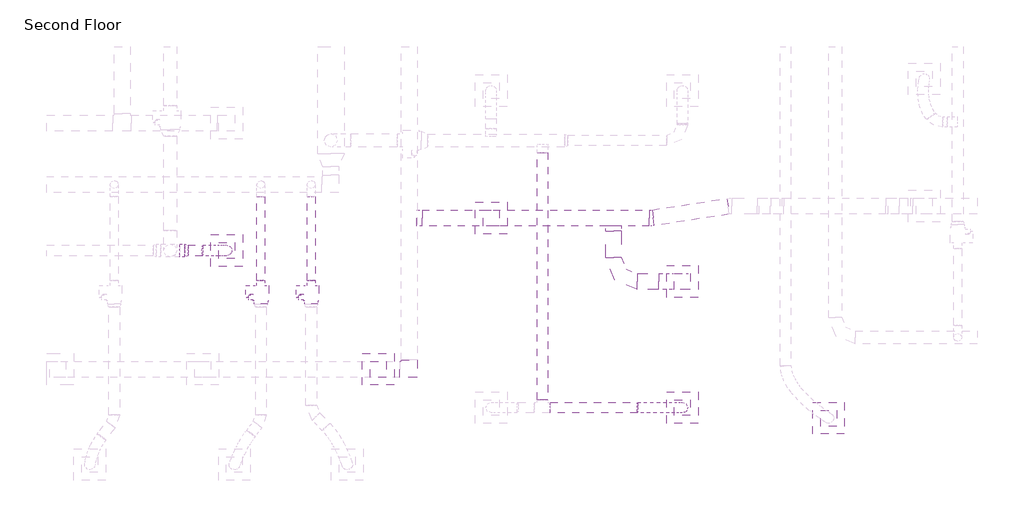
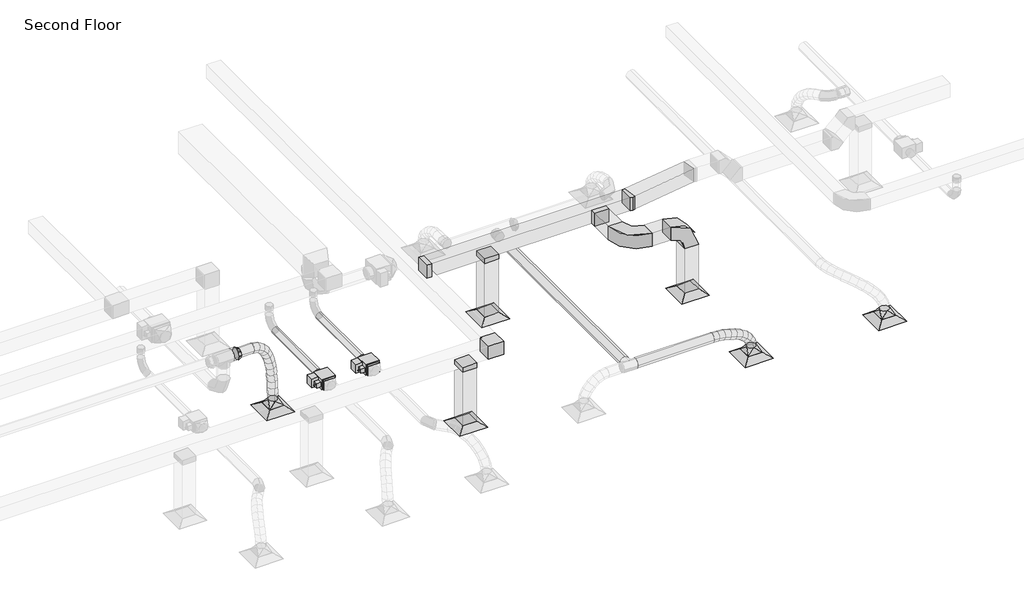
# One storey, part 9 of 44: 15 duct segments, 12 duct fittings, 6 air terminals, 2 proxies.
"""IFC4 building model written with IfcOpenShell, lengths in millimetres."""

from ifc_helpers import new_model, si_unit, point, frame, frame_2d, origin, place, context, project, spatial, polyline, circle_curve, ellipse_curve, trimmed, segment, composite_curve, outline, extrude, transform, mapped, element, save
from ifc_brep_helpers import plane_surface, cylinder_surface, advanced_brep
from components import m_exhaust_grill_er_600_x_600_face_300_x_300_connection_ff221211, m_vav_unit_single_duct_150_mm_ffdab17b, m_rectangular_elbow_mitered_standard_8eee5933, m_rectangular_elbow_mitered_standard_b4427c5f, m_rectangular_elbow_radius_1_5_w_86011e9f, m_rectangular_takeoff_standard_c00386d1, m_rectangular_takeoff_standard_b44bfa45, m_rectangular_to_round_transition_angle_45_degree_60daae35, m_round_transition_angle_45_degree_7939cf24

model = new_model("IFC4")

# Units and contexts
model_context = context("Model", 3, world=origin())
ifc_project = project(units=[si_unit("LENGTHUNIT", "METRE", prefix="MILLI")], contexts=[model_context])

# Site, building, storey
site = spatial("IfcSite", under=ifc_project)
building = spatial("IfcBuilding", under=site)
storey = spatial("IfcBuildingStorey", under=building, Name="Second Floor", Elevation=4570.0)

# Air terminals
placement = place(None, origin())
m_exhaust_grill_er_600_x_600_face_300_x_300_connection_shape = m_exhaust_grill_er_600_x_600_face_300_x_300_connection_ff221211(model_context)
element("IfcAirTerminal", 1, ObjectType="M_Return Register : RR-600 x 600 Face 300 x 300 Connection", at=placement, inside=storey, context=model_context, shape_type="MappedRepresentation", body=[
    mapped(m_exhaust_grill_er_600_x_600_face_300_x_300_connection_shape, transform((-25044.1448371, 15512.7324425, 7250.0), x_axis=(1.0, 0.0, 0.0), y_axis=(0.0, 1.0, 0.0), z_axis=(0.0, 0.0, 1.0))),
])
element("IfcAirTerminal", 2, ObjectType="M_Return Register : RR-600 x 600 Face 300 x 300 Connection", at=placement, inside=storey, context=model_context, shape_type="MappedRepresentation", body=[
    mapped(m_exhaust_grill_er_600_x_600_face_300_x_300_connection_shape, transform((-21434.5549303, 14312.7324425, 7250.0), x_axis=(1.0, 0.0, 0.0), y_axis=(0.0, 1.0, 0.0), z_axis=(0.0, 0.0, 1.0))),
])
element("IfcAirTerminal", 3, ObjectType="M_Return Register : RR-600 x 600 Face 300 x 300 Connection", at=placement, inside=storey, context=model_context, shape_type="MappedRepresentation", body=[
    mapped(m_exhaust_grill_er_600_x_600_face_300_x_300_connection_shape, transform((-27171.9634627, 12657.116341, 7250.0), x_axis=(1.0, 0.0, 0.0), y_axis=(0.0, 1.0, 0.0), z_axis=(0.0, 0.0, 1.0))),
])
element("IfcAirTerminal", 4, ObjectType="M_Supply Diffuser : SD-600 x 600 Face 300 x 300 Connection", at=placement, inside=storey, context=model_context, shape_type="MappedRepresentation", body=[
    mapped(m_exhaust_grill_er_600_x_600_face_300_x_300_connection_shape, transform((-21434.5549303, 11932.5353347, 7250.0), x_axis=(1.0, 0.0, 0.0), y_axis=(0.0, 1.0, 0.0), z_axis=(0.0, 0.0, 1.0))),
])
element("IfcAirTerminal", 5, ObjectType="M_Supply Diffuser : SD-600 x 600 Face 300 x 300 Connection", at=placement, inside=storey, context=model_context, shape_type="MappedRepresentation", body=[
    mapped(m_exhaust_grill_er_600_x_600_face_300_x_300_connection_shape, transform((-18677.4143005, 11732.7425354, 7250.0), x_axis=(1.0, 0.0, 0.0), y_axis=(0.0, 1.0, 0.0), z_axis=(0.0, 0.0, 1.0))),
])
element("IfcAirTerminal", 6, ObjectType="M_Supply Diffuser : SD-600 x 600 Face 300 x 300 Connection", at=placement, inside=storey, context=model_context, shape_type="MappedRepresentation", body=[
    mapped(m_exhaust_grill_er_600_x_600_face_300_x_300_connection_shape, transform((-30034.6900954, 14899.476398, 7250.0), x_axis=(1.0, 0.0, 0.0), y_axis=(0.0, 1.0, 0.0), z_axis=(0.0, 0.0, 1.0))),
])

# Proxies
m_vav_unit_single_duct_150_mm_shape = m_vav_unit_single_duct_150_mm_ffdab17b(model_context)
element("IfcBuildingElementProxy", 7, Name="M_VAV Unit - Single Duct : 150 mm", ObjectType="M_VAV Unit - Single Duct : 150 mm", at=placement, inside=storey, context=model_context, shape_type="MappedRepresentation", body=[
    mapped(m_vav_unit_single_duct_150_mm_shape, transform((-29388.5682282, 14234.6174916, 8070.0), x_axis=(0.0, -1.0, 0.0), y_axis=(1.0, 0.0, 0.0), z_axis=(0.0, 0.0, 1.0))),
])
element("IfcBuildingElementProxy", 8, Name="M_VAV Unit - Single Duct : 150 mm", ObjectType="M_VAV Unit - Single Duct : 150 mm", at=placement, inside=storey, context=model_context, shape_type="MappedRepresentation", body=[
    mapped(m_vav_unit_single_duct_150_mm_shape, transform((-28438.8864557, 14234.6174916, 8070.0), x_axis=(0.0, -1.0, 0.0), y_axis=(1.0, 0.0, 0.0), z_axis=(0.0, 0.0, 1.0))),
])

# Duct fittings
m_rectangular_elbow_mitered_standard_shape = m_rectangular_elbow_mitered_standard_8eee5933(model_context)
element("IfcDuctFitting", 9, ObjectType="M_Rectangular Elbow - Mitered : Standard", at=placement, inside=storey, context=model_context, shape_type="MappedRepresentation", body=[
    mapped(m_rectangular_elbow_mitered_standard_shape, transform((-26591.7415292, 12657.116341, 8820.0), x_axis=(1.0, 0.0, 0.0), y_axis=(0.0, 1.0, 0.0), z_axis=(0.0, 0.0, 1.0))),
])
m_rectangular_elbow_mitered_standard_2_shape = m_rectangular_elbow_mitered_standard_b4427c5f(model_context)
element("IfcDuctFitting", 10, ObjectType="M_Rectangular Elbow - Mitered : Standard", at=placement, inside=storey, context=model_context, shape_type="MappedRepresentation", body=[
    mapped(m_rectangular_elbow_mitered_standard_2_shape, transform((-22022.2805529, 15512.7324425, 8820.0), x_axis=(1.0, 0.0, 0.0), y_axis=(0.0, 1.0, 0.0), z_axis=(0.0, 0.0, 1.0))),
])
m_rectangular_elbow_radius_1_5_w_shape = m_rectangular_elbow_radius_1_5_w_86011e9f(model_context)
element("IfcDuctFitting", 11, ObjectType="M_Rectangular Elbow - Radius : 1.5 W", at=placement, inside=storey, context=model_context, shape_type="MappedRepresentation", body=[
    mapped(m_rectangular_elbow_radius_1_5_w_shape, transform((-21434.5549303, 14312.7324425, 8820.0), x_axis=(0.0, 0.0, 1.0), y_axis=(-1.0, 0.0, 0.0), z_axis=(0.0, -1.0, 0.0))),
])
element("IfcDuctFitting", 12, ObjectType="M_Rectangular Elbow - Radius : 1.5 W", at=placement, inside=storey, context=model_context, shape_type="MappedRepresentation", body=[
    mapped(m_rectangular_elbow_radius_1_5_w_shape, transform((-22734.5549303, 14312.7324425, 8820.0), x_axis=(0.0, -1.0, 0.0), y_axis=(1.0, 0.0, 0.0), z_axis=(0.0, 0.0, 1.0))),
])
m_rectangular_takeoff_standard_shape = m_rectangular_takeoff_standard_c00386d1(model_context)
element("IfcDuctFitting", 13, ObjectType="M_Rectangular Takeoff : Standard", at=placement, inside=storey, context=model_context, shape_type="MappedRepresentation", body=[
    mapped(m_rectangular_takeoff_standard_shape, transform((-27171.9634627, 12657.116341, 8670.0), x_axis=(0.0, 0.0, -1.0), y_axis=(0.0, 1.0, 0.0), z_axis=(1.0, 0.0, 0.0))),
])
element("IfcDuctFitting", 14, ObjectType="M_Rectangular Takeoff : Standard", at=placement, inside=storey, context=model_context, shape_type="MappedRepresentation", body=[
    mapped(m_rectangular_takeoff_standard_shape, transform((-22734.5549303, 15362.7324425, 8820.0), x_axis=(0.0, -1.0, 0.0), y_axis=(-1.0, 0.0, 0.0), z_axis=(0.0, 0.0, -1.0))),
])
m_rectangular_takeoff_standard_2_shape = m_rectangular_takeoff_standard_b44bfa45(model_context)
element("IfcDuctFitting", 15, ObjectType="M_Rectangular Takeoff : Standard", at=placement, inside=storey, context=model_context, shape_type="MappedRepresentation", body=[
    mapped(m_rectangular_takeoff_standard_2_shape, transform((-26441.7415292, 15512.7324425, 8820.0), x_axis=(1.0, 0.0, 0.0), y_axis=(0.0, -1.0, 0.0), z_axis=(0.0, 0.0, -1.0))),
])
element("IfcDuctFitting", 16, ObjectType="M_Rectangular Takeoff : Standard", at=placement, inside=storey, context=model_context, shape_type="MappedRepresentation", body=[
    mapped(m_rectangular_takeoff_standard_2_shape, transform((-25044.1448371, 15512.7324425, 8670.0), x_axis=(0.0, 0.0, -1.0), y_axis=(1.0, 0.0, 0.0), z_axis=(0.0, -1.0, 0.0))),
])
m_rectangular_to_round_transition_angle_45_degree_shape = m_rectangular_to_round_transition_angle_45_degree_60daae35(model_context)
element("IfcDuctFitting", 17, ObjectType="M_Rectangular to Round Transition - Angle : 45 Degree", at=placement, inside=storey, context=model_context, shape_type="MappedRepresentation", body=[
    mapped(m_rectangular_to_round_transition_angle_45_degree_shape, transform((-30034.6900954, 14899.476398, 7351.6), x_axis=(0.0, 0.0, 1.0), y_axis=(1.0, 0.0, 0.0), z_axis=(0.0, 1.0, 0.0))),
])
element("IfcDuctFitting", 18, ObjectType="M_Rectangular to Round Transition - Angle : 45 Degree", at=placement, inside=storey, context=model_context, shape_type="MappedRepresentation", body=[
    mapped(m_rectangular_to_round_transition_angle_45_degree_shape, transform((-21434.5549303, 11932.5353347, 7351.6), x_axis=(0.0, 0.0, 1.0), y_axis=(1.0, 0.0, 0.0), z_axis=(0.0, 1.0, 0.0))),
])
element("IfcDuctFitting", 19, ObjectType="M_Rectangular to Round Transition - Angle : 45 Degree", at=placement, inside=storey, context=model_context, shape_type="MappedRepresentation", body=[
    mapped(m_rectangular_to_round_transition_angle_45_degree_shape, transform((-18677.4143005, 11732.7425354, 7351.6), x_axis=(0.0, 0.0, 1.0), y_axis=(1.0, 0.0, 0.0), z_axis=(0.0, 1.0, 0.0))),
])
m_round_transition_angle_45_degree_shape = m_round_transition_angle_45_degree_7939cf24(model_context)
element("IfcDuctFitting", 20, ObjectType="M_Round Transition - Angle : 45 Degree", at=placement, inside=storey, context=model_context, shape_type="MappedRepresentation", body=[
    mapped(m_round_transition_angle_45_degree_shape, transform((-30823.3994281, 14899.476398, 8770.0), x_axis=(1.0, 0.0, 0.0), y_axis=(0.0, 1.0, 0.0), z_axis=(0.0, 0.0, 1.0))),
])

# Duct segments
element("IfcDuctSegment", 21, ObjectType="Flex - Round", at=placement, inside=storey, context=model_context, shape_type="AdvancedBrep", body=[
    advanced_brep(
    [(-30484.4701635, 14999.476398, 8770.0), (-30501.7202566, 14899.476398, 8671.4990645), (-30484.4701635, 14799.476398, 8770.0), (-30467.2200705, 14899.476398, 8868.5009355), (-30370.8068969, 14999.476398, 8750.0945857), (-30406.5112039, 14899.476398, 8654.8254663), (-30370.8068969, 14799.476398, 8750.0945857), (-30335.1025899, 14899.476398, 8845.3637051), (-30034.6900954, 14999.476398, 7472.3106781), (-29934.6901646, 14899.476398, 7472.4283321), (-30034.6900954, 14799.476398, 7472.3106781), (-30134.6900262, 14899.476398, 7472.1930241), (-30278.1068715, 14999.476398, 8694.0506266), (-30343.7063653, 14899.476398, 8616.8553386), (-30278.1068715, 14799.476398, 8694.0506266), (-30212.5073777, 14899.476398, 8771.2459145), (-30204.2339516, 14999.476398, 8607.376548), (-30287.9337665, 14899.476398, 8551.4181172), (-30204.2339516, 14799.476398, 8607.376548), (-30120.5341367, 14899.476398, 8663.3349787), (-30147.0520014, 14999.476398, 8495.5807755), (-30239.7125432, 14899.476398, 8457.1413588), (-30147.0520014, 14799.476398, 8495.5807755), (-30054.3914596, 14899.476398, 8534.0201921), (-30104.4248851, 14999.476398, 8364.1717345), (-30201.228541, 14899.476398, 8338.5045318), (-30104.4248851, 14799.476398, 8364.1717345), (-30007.6212292, 14899.476398, 8389.8389372), (-30074.2164669, 14999.476398, 8218.6578505), (-30172.9027325, 14899.476398, 8202.0591743), (-30074.2164669, 14799.476398, 8218.6578505), (-29975.5302014, 14899.476398, 8235.2565268), (-30054.2906111, 14999.476398, 8064.5475491), (-30153.8100211, 14899.476398, 8054.392568), (-30054.2906111, 14799.476398, 8064.5475491), (-29954.7712011, 14899.476398, 8074.7025303), (-30042.5111818, 14999.476398, 7907.3492557), (-30142.3718703, 14899.476398, 7901.7486892), (-30042.5111818, 14799.476398, 7907.3492557), (-29942.6504932, 14899.476398, 7912.9498221), (-30036.7420433, 14999.476398, 7752.5713957), (-30136.718006, 14899.476398, 7750.0634725), (-30036.7420433, 14799.476398, 7752.5713957), (-29936.7660806, 14899.476398, 7755.0793189), (-30034.8470597, 14999.476398, 7605.7223947), (-30134.8463006, 14899.476398, 7605.0183822), (-30034.8470597, 14799.476398, 7605.7223947), (-29934.8478188, 14899.476398, 7606.4264072)],
    [
        (0, 1, circle_curve(frame((-30484.4701635, 14899.476398, 8770.0), z_axis=(-0.9850093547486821, 0.0, 0.17250093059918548), x_axis=(0.0, 1.0, 0.0)), 100.0)),
        (1, 2, circle_curve(frame((-30484.4701635, 14899.476398, 8770.0), z_axis=(-0.9850093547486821, 0.0, 0.17250093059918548), x_axis=(0.0, 1.0, 0.0)), 100.0)),
        (2, 3, circle_curve(frame((-30484.4701635, 14899.476398, 8770.0), z_axis=(-0.9850093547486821, 0.0, 0.17250093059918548), x_axis=(0.0, 1.0, 0.0)), 100.0)),
        (3, 0, circle_curve(frame((-30484.4701635, 14899.476398, 8770.0), z_axis=(-0.9850093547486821, 0.0, 0.17250093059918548), x_axis=(0.0, 1.0, 0.0)), 100.0)),
        (0, 4),
        (4, 5, ellipse_curve(frame((-30370.8068969, 14899.476398, 8750.0945857), z_axis=(-0.9363989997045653, 0.0, 0.3509371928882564), x_axis=(-0.35093719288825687, 0.0, -0.9363989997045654)), 101.7398774, 100.0)),
        (5, 1),
        (5, 6, ellipse_curve(frame((-30370.8068969, 14899.476398, 8750.0945857), z_axis=(-0.9363989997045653, 0.0, 0.3509371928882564), x_axis=(-0.35093719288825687, 0.0, -0.9363989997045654)), 101.7398774, 100.0)),
        (6, 2),
        (6, 7, ellipse_curve(frame((-30370.8068969, 14899.476398, 8750.0945857), z_axis=(-0.9363989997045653, 0.0, 0.3509371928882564), x_axis=(-0.35093719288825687, 0.0, -0.9363989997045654)), 101.7398774, 100.0)),
        (7, 3),
        (7, 4, ellipse_curve(frame((-30370.8068969, 14899.476398, 8750.0945857), z_axis=(-0.9363989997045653, 0.0, 0.3509371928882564), x_axis=(-0.35093719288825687, 0.0, -0.9363989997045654)), 101.7398774, 100.0)),
        (8, 9, circle_curve(frame((-30034.6900954, 14899.476398, 7472.3106781), z_axis=(0.0011765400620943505, 0.0, -0.9999993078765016), x_axis=(0.0, 1.0, 0.0)), 100.0)),
        (9, 10, circle_curve(frame((-30034.6900954, 14899.476398, 7472.3106781), z_axis=(0.0011765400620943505, 0.0, -0.9999993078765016), x_axis=(0.0, 1.0, 0.0)), 100.0)),
        (10, 11, circle_curve(frame((-30034.6900954, 14899.476398, 7472.3106781), z_axis=(0.0011765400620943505, 0.0, -0.9999993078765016), x_axis=(0.0, 1.0, 0.0)), 100.0)),
        (11, 8, circle_curve(frame((-30034.6900954, 14899.476398, 7472.3106781), z_axis=(0.0011765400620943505, 0.0, -0.9999993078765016), x_axis=(0.0, 1.0, 0.0)), 100.0)),
        (4, 12),
        (12, 13, ellipse_curve(frame((-30278.1068715, 14899.476398, 8694.0506266), z_axis=(-0.7620196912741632, 0.0, 0.6475538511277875), x_axis=(-0.6475538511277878, 0.0, -0.7620196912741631)), 101.3035344, 100.0)),
        (13, 5),
        (13, 14, ellipse_curve(frame((-30278.1068715, 14899.476398, 8694.0506266), z_axis=(-0.7620196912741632, 0.0, 0.6475538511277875), x_axis=(-0.6475538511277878, 0.0, -0.7620196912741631)), 101.3035344, 100.0)),
        (14, 6),
        (14, 15, ellipse_curve(frame((-30278.1068715, 14899.476398, 8694.0506266), z_axis=(-0.7620196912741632, 0.0, 0.6475538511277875), x_axis=(-0.6475538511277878, 0.0, -0.7620196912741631)), 101.3035344, 100.0)),
        (15, 7),
        (15, 12, ellipse_curve(frame((-30278.1068715, 14899.476398, 8694.0506266), z_axis=(-0.7620196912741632, 0.0, 0.6475538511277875), x_axis=(-0.6475538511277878, 0.0, -0.7620196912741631)), 101.3035344, 100.0)),
        (12, 16),
        (16, 17, ellipse_curve(frame((-30204.2339516, 14899.476398, 8607.376548), z_axis=(-0.5557899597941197, 0.0, 0.8313227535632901), x_axis=(-0.8313227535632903, 0.0, -0.5557899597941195)), 100.6826946, 100.0)),
        (17, 13),
        (17, 18, ellipse_curve(frame((-30204.2339516, 14899.476398, 8607.376548), z_axis=(-0.5557899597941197, 0.0, 0.8313227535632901), x_axis=(-0.8313227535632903, 0.0, -0.5557899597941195)), 100.6826946, 100.0)),
        (18, 14),
        (18, 19, ellipse_curve(frame((-30204.2339516, 14899.476398, 8607.376548), z_axis=(-0.5557899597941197, 0.0, 0.8313227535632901), x_axis=(-0.8313227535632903, 0.0, -0.5557899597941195)), 100.6826946, 100.0)),
        (19, 15),
        (19, 16, ellipse_curve(frame((-30204.2339516, 14899.476398, 8607.376548), z_axis=(-0.5557899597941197, 0.0, 0.8313227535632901), x_axis=(-0.8313227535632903, 0.0, -0.5557899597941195)), 100.6826946, 100.0)),
        (16, 20),
        (20, 21, ellipse_curve(frame((-30147.0520014, 14899.476398, 8495.5807755), z_axis=(-0.3831782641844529, 0.0, 0.9236744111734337), x_axis=(-0.9236744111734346, 0.0, -0.3831782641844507)), 100.3173204, 100.0)),
        (21, 17),
        (21, 22, ellipse_curve(frame((-30147.0520014, 14899.476398, 8495.5807755), z_axis=(-0.3831782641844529, 0.0, 0.9236744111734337), x_axis=(-0.9236744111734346, 0.0, -0.3831782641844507)), 100.3173204, 100.0)),
        (22, 18),
        (22, 23, ellipse_curve(frame((-30147.0520014, 14899.476398, 8495.5807755), z_axis=(-0.3831782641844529, 0.0, 0.9236744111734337), x_axis=(-0.9236744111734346, 0.0, -0.3831782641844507)), 100.3173204, 100.0)),
        (23, 19),
        (23, 20, ellipse_curve(frame((-30147.0520014, 14899.476398, 8495.5807755), z_axis=(-0.3831782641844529, 0.0, 0.9236744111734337), x_axis=(-0.9236744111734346, 0.0, -0.3831782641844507)), 100.3173204, 100.0)),
        (20, 24),
        (24, 25, ellipse_curve(frame((-30104.4248851, 14899.476398, 8364.1717345), z_axis=(-0.2562910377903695, 0.0, 0.9665996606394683), x_axis=(-0.9665996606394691, 0.0, -0.2562910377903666)), 100.148655, 100.0)),
        (25, 21),
        (25, 26, ellipse_curve(frame((-30104.4248851, 14899.476398, 8364.1717345), z_axis=(-0.2562910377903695, 0.0, 0.9665996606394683), x_axis=(-0.9665996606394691, 0.0, -0.2562910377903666)), 100.148655, 100.0)),
        (26, 22),
        (26, 27, ellipse_curve(frame((-30104.4248851, 14899.476398, 8364.1717345), z_axis=(-0.2562910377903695, 0.0, 0.9665996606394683), x_axis=(-0.9665996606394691, 0.0, -0.2562910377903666)), 100.148655, 100.0)),
        (27, 23),
        (27, 24, ellipse_curve(frame((-30104.4248851, 14899.476398, 8364.1717345), z_axis=(-0.2562910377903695, 0.0, 0.9665996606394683), x_axis=(-0.9665996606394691, 0.0, -0.2562910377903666)), 100.148655, 100.0)),
        (24, 28),
        (28, 29, ellipse_curve(frame((-30074.2164669, 14899.476398, 8218.6578505), z_axis=(-0.16586659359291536, 0.0, 0.9861482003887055), x_axis=(-0.9861482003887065, 0.0, -0.16586659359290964)), 100.0724491, 100.0)),
        (29, 25),
        (29, 30, ellipse_curve(frame((-30074.2164669, 14899.476398, 8218.6578505), z_axis=(-0.16586659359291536, 0.0, 0.9861482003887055), x_axis=(-0.9861482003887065, 0.0, -0.16586659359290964)), 100.0724491, 100.0)),
        (30, 26),
        (30, 31, ellipse_curve(frame((-30074.2164669, 14899.476398, 8218.6578505), z_axis=(-0.16586659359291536, 0.0, 0.9861482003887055), x_axis=(-0.9861482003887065, 0.0, -0.16586659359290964)), 100.0724491, 100.0)),
        (31, 27),
        (31, 28, ellipse_curve(frame((-30074.2164669, 14899.476398, 8218.6578505), z_axis=(-0.16586659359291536, 0.0, 0.9861482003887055), x_axis=(-0.9861482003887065, 0.0, -0.16586659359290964)), 100.0724491, 100.0)),
        (28, 32),
        (32, 33, ellipse_curve(frame((-30054.2906111, 14899.476398, 8064.5475491), z_axis=(-0.10151308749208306, 0.0, 0.9948342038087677), x_axis=(-0.9948342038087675, 0.0, -0.10151308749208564)), 100.0361765, 100.0)),
        (33, 29),
        (33, 34, ellipse_curve(frame((-30054.2906111, 14899.476398, 8064.5475491), z_axis=(-0.10151308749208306, 0.0, 0.9948342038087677), x_axis=(-0.9948342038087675, 0.0, -0.10151308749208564)), 100.0361765, 100.0)),
        (34, 30),
        (34, 35, ellipse_curve(frame((-30054.2906111, 14899.476398, 8064.5475491), z_axis=(-0.10151308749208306, 0.0, 0.9948342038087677), x_axis=(-0.9948342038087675, 0.0, -0.10151308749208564)), 100.0361765, 100.0)),
        (35, 31),
        (35, 32, ellipse_curve(frame((-30054.2906111, 14899.476398, 8064.5475491), z_axis=(-0.10151308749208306, 0.0, 0.9948342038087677), x_axis=(-0.9948342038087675, 0.0, -0.10151308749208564)), 100.0361765, 100.0)),
        (32, 36),
        (36, 37, ellipse_curve(frame((-30042.5111818, 14899.476398, 7907.3492557), z_axis=(-0.05599580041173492, 0.0, 0.9984310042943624), x_axis=(-0.9984310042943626, 0.0, -0.05599580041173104)), 100.0176158, 100.0)),
        (37, 33),
        (37, 38, ellipse_curve(frame((-30042.5111818, 14899.476398, 7907.3492557), z_axis=(-0.05599580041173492, 0.0, 0.9984310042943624), x_axis=(-0.9984310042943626, 0.0, -0.05599580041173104)), 100.0176158, 100.0)),
        (38, 34),
        (38, 39, ellipse_curve(frame((-30042.5111818, 14899.476398, 7907.3492557), z_axis=(-0.05599580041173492, 0.0, 0.9984310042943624), x_axis=(-0.9984310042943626, 0.0, -0.05599580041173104)), 100.0176158, 100.0)),
        (39, 35),
        (39, 36, ellipse_curve(frame((-30042.5111818, 14899.476398, 7907.3492557), z_axis=(-0.05599580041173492, 0.0, 0.9984310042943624), x_axis=(-0.9984310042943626, 0.0, -0.05599580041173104)), 100.0176158, 100.0)),
        (36, 40),
        (40, 41, ellipse_curve(frame((-30036.7420433, 14899.476398, 7752.5713957), z_axis=(-0.025077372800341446, 0.0, 0.9996855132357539), x_axis=(-0.9996855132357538, 0.0, -0.025077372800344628)), 100.0074137, 100.0)),
        (41, 37),
        (41, 42, ellipse_curve(frame((-30036.7420433, 14899.476398, 7752.5713957), z_axis=(-0.025077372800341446, 0.0, 0.9996855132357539), x_axis=(-0.9996855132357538, 0.0, -0.025077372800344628)), 100.0074137, 100.0)),
        (42, 38),
        (42, 43, ellipse_curve(frame((-30036.7420433, 14899.476398, 7752.5713957), z_axis=(-0.025077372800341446, 0.0, 0.9996855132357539), x_axis=(-0.9996855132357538, 0.0, -0.025077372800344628)), 100.0074137, 100.0)),
        (43, 39),
        (43, 40, ellipse_curve(frame((-30036.7420433, 14899.476398, 7752.5713957), z_axis=(-0.025077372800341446, 0.0, 0.9996855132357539), x_axis=(-0.9996855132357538, 0.0, -0.025077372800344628)), 100.0074137, 100.0)),
        (40, 44),
        (44, 45, ellipse_curve(frame((-30034.8470597, 14899.476398, 7605.7223947), z_axis=(-0.007040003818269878, 0.0, 0.9999752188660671), x_axis=(-0.999975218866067, -1.257511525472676e-12, -0.0070400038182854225)), 100.0017191, 100.0)),
        (45, 41),
        (45, 46, ellipse_curve(frame((-30034.8470597, 14899.476398, 7605.7223947), z_axis=(-0.007040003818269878, 0.0, 0.9999752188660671), x_axis=(-0.999975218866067, -1.257511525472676e-12, -0.0070400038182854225)), 100.0017191, 100.0)),
        (46, 42),
        (46, 47, ellipse_curve(frame((-30034.8470597, 14899.476398, 7605.7223947), z_axis=(-0.007040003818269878, 0.0, 0.9999752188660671), x_axis=(-0.999975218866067, -1.257511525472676e-12, -0.0070400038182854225)), 100.0017191, 100.0)),
        (47, 43),
        (47, 44, ellipse_curve(frame((-30034.8470597, 14899.476398, 7605.7223947), z_axis=(-0.007040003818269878, 0.0, 0.9999752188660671), x_axis=(-0.999975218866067, -1.257511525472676e-12, -0.0070400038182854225)), 100.0017191, 100.0)),
        (44, 8),
        (11, 45),
        (10, 46),
        (9, 47),
    ],
    [
        plane_surface(frame((-30484.4701635, 14999.476398, 8770.0), z_axis=(-0.9850093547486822, 0.0, 0.17250093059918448), x_axis=(0.17250093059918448, 0.0, 0.9850093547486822))),
        cylinder_surface(frame((-30484.4701635, 14899.476398, 8770.0), z_axis=(-0.9850093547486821, 0.0, 0.17250093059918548), x_axis=(0.0, 1.0, 0.0)), 100.0),
        plane_surface(frame((-30034.6900954, 14799.476398, 7472.3106781), z_axis=(0.0011765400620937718, 0.0, -0.9999993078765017), x_axis=(-0.9999993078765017, 0.0, -0.0011765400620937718))),
        cylinder_surface(frame((-30370.8068969, 14899.476398, 8750.0945857), z_axis=(-0.855761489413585, 0.0, 0.5173705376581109), x_axis=(0.0, 1.0, 0.0)), 100.0),
        cylinder_surface(frame((-30278.1068715, 14899.476398, 8694.0506266), z_axis=(-0.648667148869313, 0.0, 0.7610722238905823), x_axis=(0.0, 1.0, 0.0)), 100.0),
        cylinder_surface(frame((-30204.2339516, 14899.476398, 8607.376548), z_axis=(-0.45537553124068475, 0.0, 0.8902994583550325), x_axis=(0.0, 1.0, 0.0)), 100.0),
        cylinder_surface(frame((-30147.0520014, 14899.476398, 8495.5807755), z_axis=(-0.30855688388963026, 0.0, 0.9512058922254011), x_axis=(0.0, 1.0, 0.0)), 100.0),
        cylinder_surface(frame((-30104.4248851, 14899.476398, 8364.1717345), z_axis=(-0.20326434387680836, 0.0, 0.9791238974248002), x_axis=(0.0, 1.0, 0.0)), 100.0),
        cylinder_surface(frame((-30074.2164669, 14899.476398, 8218.6578505), z_axis=(-0.12822867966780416, 0.0, 0.9917446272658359), x_axis=(0.0, 1.0, 0.0)), 100.0),
        cylinder_surface(frame((-30054.2906111, 14899.476398, 8064.5475491), z_axis=(-0.07472407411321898, 0.0, 0.9972042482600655), x_axis=(0.0, 1.0, 0.0)), 100.0),
        cylinder_surface(frame((-30042.5111818, 14899.476398, 7907.3492557), z_axis=(-0.03724780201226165, 0.0, 0.9993060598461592), x_axis=(0.0, 1.0, 0.0)), 100.0),
        cylinder_surface(frame((-30036.7420433, 14899.476398, 7752.5713957), z_axis=(-0.012903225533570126, 0.0, 0.9999167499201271), x_axis=(0.0, 1.0, 0.0)), 100.0),
        cylinder_surface(frame((-30034.8470597, 14899.476398, 7605.7223947), z_axis=(-0.0011765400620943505, 0.0, 0.9999993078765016), x_axis=(0.0, 1.0, 0.0)), 100.0),
    ],
    [
        (0, [[1, 2, 3, 4]]),
        (1, [[-1, 5, 6, 7]]),
        (1, [[-2, -7, 8, 9]]),
        (1, [[-3, -9, 10, 11]]),
        (1, [[-4, -11, 12, -5]]),
        (2, [[13, 14, 15, 16]]),
        (3, [[-6, 17, 18, 19]]),
        (3, [[-8, -19, 20, 21]]),
        (3, [[-10, -21, 22, 23]]),
        (3, [[-12, -23, 24, -17]]),
        (4, [[-18, 25, 26, 27]]),
        (4, [[-20, -27, 28, 29]]),
        (4, [[-22, -29, 30, 31]]),
        (4, [[-24, -31, 32, -25]]),
        (5, [[-26, 33, 34, 35]]),
        (5, [[-28, -35, 36, 37]]),
        (5, [[-30, -37, 38, 39]]),
        (5, [[-32, -39, 40, -33]]),
        (6, [[-34, 41, 42, 43]]),
        (6, [[-36, -43, 44, 45]]),
        (6, [[-38, -45, 46, 47]]),
        (6, [[-40, -47, 48, -41]]),
        (7, [[-42, 49, 50, 51]]),
        (7, [[-44, -51, 52, 53]]),
        (7, [[-46, -53, 54, 55]]),
        (7, [[-48, -55, 56, -49]]),
        (8, [[-50, 57, 58, 59]]),
        (8, [[-52, -59, 60, 61]]),
        (8, [[-54, -61, 62, 63]]),
        (8, [[-56, -63, 64, -57]]),
        (9, [[-58, 65, 66, 67]]),
        (9, [[-60, -67, 68, 69]]),
        (9, [[-62, -69, 70, 71]]),
        (9, [[-64, -71, 72, -65]]),
        (10, [[-66, 73, 74, 75]]),
        (10, [[-68, -75, 76, 77]]),
        (10, [[-70, -77, 78, 79]]),
        (10, [[-72, -79, 80, -73]]),
        (11, [[-74, 81, 82, 83]]),
        (11, [[-76, -83, 84, 85]]),
        (11, [[-78, -85, 86, 87]]),
        (11, [[-80, -87, 88, -81]]),
        (12, [[-82, 89, -16, 90]]),
        (12, [[-84, -90, -15, 91]]),
        (12, [[-86, -91, -14, 92]]),
        (12, [[-88, -92, -13, -89]]),
    ],
),
])
element("IfcDuctSegment", 22, ObjectType="Flex - Round", at=placement, inside=storey, context=model_context, shape_type="AdvancedBrep", body=[
    advanced_brep(
    [(-22281.9484882, 12032.5353347, 7939.1), (-22286.672458, 11932.5353347, 7839.2116418), (-22281.9484882, 11832.5353347, 7939.1), (-22277.2245183, 11932.5353347, 8038.9883582), (-22167.9540797, 12032.5353347, 7933.7089198), (-22176.9241112, 11932.5353347, 7834.0213685), (-22167.9540797, 11832.5353347, 7933.7089198), (-22158.9840482, 11932.5353347, 8033.3964712), (-21434.5549303, 12032.5353347, 7472.3106781), (-21336.1834532, 11932.5353347, 7490.2843391), (-21434.5549303, 11832.5353347, 7472.3106781), (-21532.9264075, 11932.5353347, 7454.3370172), (-22044.9515836, 12032.5353347, 7917.3498038), (-22062.2725233, 11932.5353347, 7818.7729086), (-22044.9515836, 11832.5353347, 7917.3498038), (-22027.6306439, 11932.5353347, 8015.9266991), (-21918.9272769, 12032.5353347, 7889.7438388), (-21944.8331056, 11932.5353347, 7793.0474867), (-21918.9272769, 11832.5353347, 7889.7438388), (-21893.0214482, 11932.5353347, 7986.4401909), (-21795.8674366, 12032.5353347, 7850.6122115), (-21831.5115693, 11932.5353347, 7757.0125291), (-21795.8674366, 11832.5353347, 7850.6122115), (-21760.2233039, 11932.5353347, 7944.2118938), (-21681.7583399, 12032.5353347, 7799.6761086), (-21729.2087884, 11932.5353347, 7711.3465382), (-21681.7583399, 11832.5353347, 7799.6761086), (-21634.3078914, 11932.5353347, 7888.0056791), (-21582.5862638, 12032.5353347, 7736.6567171), (-21644.7154524, 11932.5353347, 7657.6548255), (-21582.5862638, 11832.5353347, 7736.6567171), (-21520.4570753, 11932.5353347, 7815.6586088), (-21504.3374855, 12032.5353347, 7661.2752237), (-21583.7200997, 11932.5353347, 7598.8945371), (-21504.3374855, 11832.5353347, 7661.2752237), (-21424.9548713, 11932.5353347, 7723.6559102), (-21452.998282, 12032.5353347, 7573.2528151), (-21548.216927, 11932.5353347, 7538.023418), (-21452.998282, 11832.5353347, 7573.2528151), (-21357.7796369, 11932.5353347, 7608.4822122)],
    [
        (0, 1, circle_curve(frame((-22281.9484882, 11932.5353347, 7939.1), z_axis=(-0.9988835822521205, 0.0, 0.04723969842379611), x_axis=(0.0, 1.0, 0.0)), 100.0)),
        (1, 2, circle_curve(frame((-22281.9484882, 11932.5353347, 7939.1), z_axis=(-0.9988835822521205, 0.0, 0.04723969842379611), x_axis=(0.0, 1.0, 0.0)), 100.0)),
        (2, 3, circle_curve(frame((-22281.9484882, 11932.5353347, 7939.1), z_axis=(-0.9988835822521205, 0.0, 0.04723969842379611), x_axis=(0.0, 1.0, 0.0)), 100.0)),
        (3, 0, circle_curve(frame((-22281.9484882, 11932.5353347, 7939.1), z_axis=(-0.9988835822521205, 0.0, 0.04723969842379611), x_axis=(0.0, 1.0, 0.0)), 100.0)),
        (0, 4),
        (4, 5, ellipse_curve(frame((-22167.9540797, 11932.5353347, 7933.7089198), z_axis=(-0.9959760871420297, 0.0, 0.08961938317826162), x_axis=(-0.08961938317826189, 0.0, -0.9959760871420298)), 100.090306, 100.0)),
        (5, 1),
        (5, 6, ellipse_curve(frame((-22167.9540797, 11932.5353347, 7933.7089198), z_axis=(-0.9959760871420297, 0.0, 0.08961938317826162), x_axis=(-0.08961938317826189, 0.0, -0.9959760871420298)), 100.090306, 100.0)),
        (6, 2),
        (6, 7, ellipse_curve(frame((-22167.9540797, 11932.5353347, 7933.7089198), z_axis=(-0.9959760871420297, 0.0, 0.08961938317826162), x_axis=(-0.08961938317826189, 0.0, -0.9959760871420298)), 100.090306, 100.0)),
        (7, 3),
        (7, 4, ellipse_curve(frame((-22167.9540797, 11932.5353347, 7933.7089198), z_axis=(-0.9959760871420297, 0.0, 0.08961938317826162), x_axis=(-0.08961938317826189, 0.0, -0.9959760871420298)), 100.090306, 100.0)),
        (8, 9, circle_curve(frame((-21434.5549303, 11932.5353347, 7472.3106781), z_axis=(0.17973660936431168, 0.0, -0.9837147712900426), x_axis=(0.0, 1.0, 0.0)), 100.0)),
        (9, 10, circle_curve(frame((-21434.5549303, 11932.5353347, 7472.3106781), z_axis=(0.17973660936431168, 0.0, -0.9837147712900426), x_axis=(0.0, 1.0, 0.0)), 100.0)),
        (10, 11, circle_curve(frame((-21434.5549303, 11932.5353347, 7472.3106781), z_axis=(0.17973660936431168, 0.0, -0.9837147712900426), x_axis=(0.0, 1.0, 0.0)), 100.0)),
        (11, 8, circle_curve(frame((-21434.5549303, 11932.5353347, 7472.3106781), z_axis=(0.17973660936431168, 0.0, -0.9837147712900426), x_axis=(0.0, 1.0, 0.0)), 100.0)),
        (4, 12),
        (12, 13, ellipse_curve(frame((-22044.9515836, 11932.5353347, 7917.3498038), z_axis=(-0.9849115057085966, 0.0, 0.17305873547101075), x_axis=(-0.17305873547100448, 0.0, -0.9849115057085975)), 100.0870582, 100.0)),
        (13, 5),
        (13, 14, ellipse_curve(frame((-22044.9515836, 11932.5353347, 7917.3498038), z_axis=(-0.9849115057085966, 0.0, 0.17305873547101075), x_axis=(-0.17305873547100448, 0.0, -0.9849115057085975)), 100.0870582, 100.0)),
        (14, 6),
        (14, 15, ellipse_curve(frame((-22044.9515836, 11932.5353347, 7917.3498038), z_axis=(-0.9849115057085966, 0.0, 0.17305873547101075), x_axis=(-0.17305873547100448, 0.0, -0.9849115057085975)), 100.0870582, 100.0)),
        (15, 7),
        (15, 12, ellipse_curve(frame((-22044.9515836, 11932.5353347, 7917.3498038), z_axis=(-0.9849115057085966, 0.0, 0.17305873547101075), x_axis=(-0.17305873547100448, 0.0, -0.9849115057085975)), 100.0870582, 100.0)),
        (12, 16),
        (16, 17, ellipse_curve(frame((-21918.9272769, 11932.5353347, 7889.7438388), z_axis=(-0.9659355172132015, 0.0, 0.2587828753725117), x_axis=(-0.2587828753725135, 0.0, -0.965935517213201)), 100.1064257, 100.0)),
        (17, 13),
        (17, 18, ellipse_curve(frame((-21918.9272769, 11932.5353347, 7889.7438388), z_axis=(-0.9659355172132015, 0.0, 0.2587828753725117), x_axis=(-0.2587828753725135, 0.0, -0.965935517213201)), 100.1064257, 100.0)),
        (18, 14),
        (18, 19, ellipse_curve(frame((-21918.9272769, 11932.5353347, 7889.7438388), z_axis=(-0.9659355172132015, 0.0, 0.2587828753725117), x_axis=(-0.2587828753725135, 0.0, -0.965935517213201)), 100.1064257, 100.0)),
        (19, 15),
        (19, 16, ellipse_curve(frame((-21918.9272769, 11932.5353347, 7889.7438388), z_axis=(-0.9659355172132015, 0.0, 0.2587828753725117), x_axis=(-0.2587828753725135, 0.0, -0.965935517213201)), 100.1064257, 100.0)),
        (16, 20),
        (20, 21, ellipse_curve(frame((-21795.8674366, 11932.5353347, 7850.6122115), z_axis=(-0.9345305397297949, 0.0, 0.35588294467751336), x_axis=(-0.3558829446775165, 0.0, -0.9345305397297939)), 100.1569006, 100.0)),
        (21, 17),
        (21, 22, ellipse_curve(frame((-21795.8674366, 11932.5353347, 7850.6122115), z_axis=(-0.9345305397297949, 0.0, 0.35588294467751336), x_axis=(-0.3558829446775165, 0.0, -0.9345305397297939)), 100.1569006, 100.0)),
        (22, 18),
        (22, 23, ellipse_curve(frame((-21795.8674366, 11932.5353347, 7850.6122115), z_axis=(-0.9345305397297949, 0.0, 0.35588294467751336), x_axis=(-0.3558829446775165, 0.0, -0.9345305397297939)), 100.1569006, 100.0)),
        (23, 19),
        (23, 20, ellipse_curve(frame((-21795.8674366, 11932.5353347, 7850.6122115), z_axis=(-0.9345305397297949, 0.0, 0.35588294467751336), x_axis=(-0.3558829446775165, 0.0, -0.9345305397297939)), 100.1569006, 100.0)),
        (20, 24),
        (24, 25, ellipse_curve(frame((-21681.7583399, 11932.5353347, 7799.6761086), z_axis=(-0.8809354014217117, 0.0, 0.4732365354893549), x_axis=(-0.47323653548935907, 0.0, -0.8809354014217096)), 100.2679314, 100.0)),
        (25, 21),
        (25, 26, ellipse_curve(frame((-21681.7583399, 11932.5353347, 7799.6761086), z_axis=(-0.8809354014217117, 0.0, 0.4732365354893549), x_axis=(-0.47323653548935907, 0.0, -0.8809354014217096)), 100.2679314, 100.0)),
        (26, 22),
        (26, 27, ellipse_curve(frame((-21681.7583399, 11932.5353347, 7799.6761086), z_axis=(-0.8809354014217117, 0.0, 0.4732365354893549), x_axis=(-0.47323653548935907, 0.0, -0.8809354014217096)), 100.2679314, 100.0)),
        (27, 23),
        (27, 24, ellipse_curve(frame((-21681.7583399, 11932.5353347, 7799.6761086), z_axis=(-0.8809354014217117, 0.0, 0.4732365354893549), x_axis=(-0.47323653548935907, 0.0, -0.8809354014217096)), 100.2679314, 100.0)),
        (24, 28),
        (28, 29, ellipse_curve(frame((-21582.5862638, 11932.5353347, 7736.6567171), z_axis=(-0.7860462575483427, 0.0, 0.618167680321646), x_axis=(-0.6181676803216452, 0.0, -0.7860462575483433)), 100.5053976, 100.0)),
        (29, 25),
        (29, 30, ellipse_curve(frame((-21582.5862638, 11932.5353347, 7736.6567171), z_axis=(-0.7860462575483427, 0.0, 0.618167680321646), x_axis=(-0.6181676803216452, 0.0, -0.7860462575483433)), 100.5053976, 100.0)),
        (30, 26),
        (30, 31, ellipse_curve(frame((-21582.5862638, 11932.5353347, 7736.6567171), z_axis=(-0.7860462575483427, 0.0, 0.618167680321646), x_axis=(-0.6181676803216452, 0.0, -0.7860462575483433)), 100.5053976, 100.0)),
        (31, 27),
        (31, 28, ellipse_curve(frame((-21582.5862638, 11932.5353347, 7736.6567171), z_axis=(-0.7860462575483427, 0.0, 0.618167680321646), x_axis=(-0.6181676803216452, 0.0, -0.7860462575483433)), 100.5053976, 100.0)),
        (28, 32),
        (32, 33, ellipse_curve(frame((-21504.3374855, 11932.5353347, 7661.2752237), z_axis=(-0.6178744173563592, 0.0, 0.7862767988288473), x_axis=(-0.7862767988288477, 0.0, -0.6178744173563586)), 100.9601381, 100.0)),
        (33, 29),
        (33, 34, ellipse_curve(frame((-21504.3374855, 11932.5353347, 7661.2752237), z_axis=(-0.6178744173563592, 0.0, 0.7862767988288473), x_axis=(-0.7862767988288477, 0.0, -0.6178744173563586)), 100.9601381, 100.0)),
        (34, 30),
        (34, 35, ellipse_curve(frame((-21504.3374855, 11932.5353347, 7661.2752237), z_axis=(-0.6178744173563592, 0.0, 0.7862767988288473), x_axis=(-0.7862767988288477, 0.0, -0.6178744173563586)), 100.9601381, 100.0)),
        (35, 31),
        (35, 32, ellipse_curve(frame((-21504.3374855, 11932.5353347, 7661.2752237), z_axis=(-0.6178744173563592, 0.0, 0.7862767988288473), x_axis=(-0.7862767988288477, 0.0, -0.6178744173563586)), 100.9601381, 100.0)),
        (32, 36),
        (36, 37, ellipse_curve(frame((-21452.998282, 11932.5353347, 7573.2528151), z_axis=(-0.3469958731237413, 0.0, 0.9378666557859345), x_axis=(-0.9378666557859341, 0.0, -0.34699587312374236)), 101.5268476, 100.0)),
        (37, 33),
        (37, 38, ellipse_curve(frame((-21452.998282, 11932.5353347, 7573.2528151), z_axis=(-0.3469958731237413, 0.0, 0.9378666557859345), x_axis=(-0.9378666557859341, 0.0, -0.34699587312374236)), 101.5268476, 100.0)),
        (38, 34),
        (38, 39, ellipse_curve(frame((-21452.998282, 11932.5353347, 7573.2528151), z_axis=(-0.3469958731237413, 0.0, 0.9378666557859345), x_axis=(-0.9378666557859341, 0.0, -0.34699587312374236)), 101.5268476, 100.0)),
        (39, 35),
        (39, 36, ellipse_curve(frame((-21452.998282, 11932.5353347, 7573.2528151), z_axis=(-0.3469958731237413, 0.0, 0.9378666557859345), x_axis=(-0.9378666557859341, 0.0, -0.34699587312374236)), 101.5268476, 100.0)),
        (36, 8),
        (11, 37),
        (10, 38),
        (9, 39),
    ],
    [
        plane_surface(frame((-22281.9484882, 12032.5353347, 7939.1), z_axis=(-0.9988835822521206, 0.0, 0.047239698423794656), x_axis=(0.047239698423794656, 0.0, 0.9988835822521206))),
        cylinder_surface(frame((-22281.9484882, 11932.5353347, 7939.1), z_axis=(-0.9988835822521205, 0.0, 0.04723969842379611), x_axis=(0.0, 1.0, 0.0)), 100.0),
        plane_surface(frame((-21434.5549303, 12032.5353347, 7472.3106781), z_axis=(0.17973660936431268, 0.0, -0.9837147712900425), x_axis=(0.9837147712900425, 0.0, 0.17973660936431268))),
        cylinder_surface(frame((-22167.9540797, 11932.5353347, 7933.7089198), z_axis=(-0.9912713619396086, 0.0, 0.1318373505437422), x_axis=(0.0, 1.0, 0.0)), 100.0),
        cylinder_surface(frame((-22044.9515836, 11932.5353347, 7917.3498038), z_axis=(-0.976838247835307, 0.0, 0.21397905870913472), x_axis=(0.0, 1.0, 0.0)), 100.0),
        cylinder_surface(frame((-21918.9272769, 11932.5353347, 7889.7438388), z_axis=(-0.9529789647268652, 0.0, 0.30303645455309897), x_axis=(0.0, 1.0, 0.0)), 100.0),
        cylinder_surface(frame((-21795.8674366, 11932.5353347, 7850.6122115), z_axis=(-0.9131541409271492, 0.0, 0.4076144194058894), x_axis=(0.0, 1.0, 0.0)), 100.0),
        cylinder_surface(frame((-21681.7583399, 11932.5353347, 7799.6761086), z_axis=(-0.8440086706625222, 0.0, 0.5363295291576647), x_axis=(0.0, 1.0, 0.0)), 100.0),
        cylinder_surface(frame((-21582.5862638, 11932.5353347, 7736.6567171), z_axis=(-0.7201784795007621, 0.0, 0.6937888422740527), x_axis=(0.0, 1.0, 0.0)), 100.0),
        cylinder_surface(frame((-21504.3374855, 11932.5353347, 7661.2752237), z_axis=(-0.5038182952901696, 0.0, 0.863809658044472), x_axis=(0.0, 1.0, 0.0)), 100.0),
        cylinder_surface(frame((-21452.998282, 11932.5353347, 7573.2528151), z_axis=(-0.17973660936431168, 0.0, 0.9837147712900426), x_axis=(0.0, 1.0, 0.0)), 100.0),
    ],
    [
        (0, [[1, 2, 3, 4]]),
        (1, [[-1, 5, 6, 7]]),
        (1, [[-2, -7, 8, 9]]),
        (1, [[-3, -9, 10, 11]]),
        (1, [[-4, -11, 12, -5]]),
        (2, [[13, 14, 15, 16]]),
        (3, [[-6, 17, 18, 19]]),
        (3, [[-8, -19, 20, 21]]),
        (3, [[-10, -21, 22, 23]]),
        (3, [[-12, -23, 24, -17]]),
        (4, [[-18, 25, 26, 27]]),
        (4, [[-20, -27, 28, 29]]),
        (4, [[-22, -29, 30, 31]]),
        (4, [[-24, -31, 32, -25]]),
        (5, [[-26, 33, 34, 35]]),
        (5, [[-28, -35, 36, 37]]),
        (5, [[-30, -37, 38, 39]]),
        (5, [[-32, -39, 40, -33]]),
        (6, [[-34, 41, 42, 43]]),
        (6, [[-36, -43, 44, 45]]),
        (6, [[-38, -45, 46, 47]]),
        (6, [[-40, -47, 48, -41]]),
        (7, [[-42, 49, 50, 51]]),
        (7, [[-44, -51, 52, 53]]),
        (7, [[-46, -53, 54, 55]]),
        (7, [[-48, -55, 56, -49]]),
        (8, [[-50, 57, 58, 59]]),
        (8, [[-52, -59, 60, 61]]),
        (8, [[-54, -61, 62, 63]]),
        (8, [[-56, -63, 64, -57]]),
        (9, [[-58, 65, 66, 67]]),
        (9, [[-60, -67, 68, 69]]),
        (9, [[-62, -69, 70, 71]]),
        (9, [[-64, -71, 72, -65]]),
        (10, [[-66, 73, -16, 74]]),
        (10, [[-68, -74, -15, 75]]),
        (10, [[-70, -75, -14, 76]]),
        (10, [[-72, -76, -13, -73]]),
    ],
),
])
element("IfcDuctSegment", 23, ObjectType="Mitered Elbows / Taps", at=placement, inside=storey, context=model_context, shape_type="SweptSolid", body=[
    extrude(outline(polyline([(-20597.2300159, 15880.146052), (-20552.3314976, 15583.5248743), (-21963.9518008, 15369.852808), (-22008.8503191, 15666.4739856), (-20597.2300159, 15880.146052)])), frame((0.0, 0.0, 8670.0), z_axis=(0.0, 0.0, 1.0), x_axis=(1.0, 0.0, 0.0)), (0.0, 0.0, 1.0), 300.0),
])
element("IfcDuctSegment", 24, ObjectType="Mitered Elbows / Taps", at=placement, inside=storey, context=model_context, shape_type="SweptSolid", body=[
    extrude(outline(polyline([(-22058.5687505, 15662.7324425), (-22058.5687505, 15362.7324425), (-26341.7415292, 15362.7324425), (-26341.7415292, 15662.7324425), (-22058.5687505, 15662.7324425)])), frame((0.0, 0.0, 8670.0), z_axis=(0.0, 0.0, 1.0), x_axis=(1.0, 0.0, 0.0)), (0.0, 0.0, 1.0), 300.0),
])
element("IfcDuctSegment", 25, ObjectType="Mitered Elbows / Taps", at=placement, inside=storey, context=model_context, shape_type="SweptSolid", body=[
    extrude(outline(polyline([(-27321.9634627, 12507.116341), (-27321.9634627, 12807.116341), (-27021.9634627, 12807.116341), (-27021.9634627, 12507.116341), (-27321.9634627, 12507.116341)])), frame((0.0, 0.0, 7351.6), z_axis=(0.0, 0.0, 1.0), x_axis=(1.0, 0.0, 0.0)), (0.0, 0.0, 1.0), 1218.4),
])
element("IfcDuctSegment", 26, ObjectType="Radius Elbows / Taps", at=placement, inside=storey, context=model_context, shape_type="SweptSolid", body=[
    extrude(outline(polyline([(-24894.1448371, 15662.7324425), (-24894.1448371, 15362.7324425), (-25194.1448371, 15362.7324425), (-25194.1448371, 15662.7324425), (-24894.1448371, 15662.7324425)])), frame((0.0, 0.0, 7351.6), z_axis=(0.0, 0.0, 1.0), x_axis=(1.0, 0.0, 0.0)), (0.0, 0.0, 1.0), 1218.4),
])
element("IfcDuctSegment", 27, ObjectType="Radius Elbows / Taps", at=placement, inside=storey, context=model_context, shape_type="SweptSolid", body=[
    extrude(outline(polyline([(-21884.5549303, 14462.7324425), (-21884.5549303, 14162.7324425), (-22284.5549303, 14162.7324425), (-22284.5549303, 14462.7324425), (-21884.5549303, 14462.7324425)])), frame((0.0, 0.0, 8670.0), z_axis=(0.0, 0.0, 1.0), x_axis=(1.0, 0.0, 0.0)), (0.0, 0.0, 1.0), 300.0),
])
element("IfcDuctSegment", 28, ObjectType="Radius Elbows / Taps", at=placement, inside=storey, context=model_context, shape_type="SweptSolid", body=[
    extrude(outline(polyline([(-21584.5549303, 14162.7324425), (-21584.5549303, 14462.7324425), (-21284.5549303, 14462.7324425), (-21284.5549303, 14162.7324425), (-21584.5549303, 14162.7324425)])), frame((0.0, 0.0, 7351.6), z_axis=(0.0, 0.0, 1.0), x_axis=(1.0, 0.0, 0.0)), (0.0, 0.0, 1.0), 1018.4),
])
element("IfcDuctSegment", 29, ObjectType="Radius Elbows / Taps", at=placement, inside=storey, context=model_context, shape_type="SweptSolid", body=[
    extrude(outline(polyline([(-22884.5549303, 15262.7324425), (-22584.5549303, 15262.7324425), (-22584.5549303, 14762.7324425), (-22884.5549303, 14762.7324425), (-22884.5549303, 15262.7324425)])), frame((0.0, 0.0, 8670.0), z_axis=(0.0, 0.0, 1.0), x_axis=(1.0, 0.0, 0.0)), (0.0, 0.0, 1.0), 300.0),
])
element("IfcDuctSegment", 30, ObjectType="Taps", at=placement, inside=storey, context=model_context, shape_type="SweptSolid", body=[
    extrude(outline(composite_curve([segment(trimmed(circle_curve(frame_2d((0.0, 75.0)), 75.0), [point((0.0, 0.0))], [point((-75.0, 75.0))], False, "CARTESIAN"), True, "CONTINUOUS"), segment(trimmed(circle_curve(frame_2d((0.0, 75.0)), 75.0), [point((-75.0, 75.0))], [point((0.0, 150.0))], False, "CARTESIAN"), True, "CONTINUOUS"), segment(trimmed(circle_curve(frame_2d((0.0, 75.0)), 75.0), [point((0.0, 150.0))], [point((75.0, 75.0))], False, "CARTESIAN"), True, "CONTINUOUS"), segment(trimmed(circle_curve(frame_2d((0.0, 75.0)), 75.0), [point((75.0, 75.0))], [point((0.0, 0.0))], False, "CARTESIAN"), True, "CONTINUOUS")], self_intersect=False)), frame((-29462.7182282, 15921.5874446, 8179.5031071), z_axis=(0.0, -0.9999999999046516, 1.3809308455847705e-05), x_axis=(0.0, -1.3809308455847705e-05, -0.9999999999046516)), (0.0, 0.0, 1.0), 1585.3699531),
])
element("IfcDuctSegment", 31, ObjectType="Taps", at=placement, inside=storey, context=model_context, shape_type="SweptSolid", body=[
    extrude(outline(composite_curve([segment(trimmed(circle_curve(frame_2d((0.0, 75.0)), 75.0), [point((0.0, 0.0))], [point((-75.0, 75.0))], False, "CARTESIAN"), True, "CONTINUOUS"), segment(trimmed(circle_curve(frame_2d((0.0, 75.0)), 75.0), [point((-75.0, 75.0))], [point((0.0, 150.0))], False, "CARTESIAN"), True, "CONTINUOUS"), segment(trimmed(circle_curve(frame_2d((0.0, 75.0)), 75.0), [point((0.0, 150.0))], [point((75.0, 75.0))], False, "CARTESIAN"), True, "CONTINUOUS"), segment(trimmed(circle_curve(frame_2d((0.0, 75.0)), 75.0), [point((75.0, 75.0))], [point((0.0, 0.0))], False, "CARTESIAN"), True, "CONTINUOUS")], self_intersect=False)), frame((-28513.0364557, 15921.5874446, 8179.5031071), z_axis=(0.0, -0.9999999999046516, 1.3809308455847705e-05), x_axis=(0.0, -1.3809308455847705e-05, -0.9999999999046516)), (0.0, 0.0, 1.0), 1585.3699531),
])
element("IfcDuctSegment", 32, ObjectType="Taps", at=placement, inside=storey, context=model_context, shape_type="SweptSolid", body=[
    extrude(outline(composite_curve([segment(trimmed(circle_curve(frame_2d((14899.476398, 8770.0)), 125.0), [point((14774.476398, 8770.0))], [point((14899.476398, 8895.0))], False, "CARTESIAN"), True, "CONTINUOUS"), segment(trimmed(circle_curve(frame_2d((14899.476398, 8770.0)), 125.0), [point((14899.476398, 8895.0))], [point((15024.476398, 8770.0))], False, "CARTESIAN"), True, "CONTINUOUS"), segment(trimmed(circle_curve(frame_2d((14899.476398, 8770.0)), 125.0), [point((15024.476398, 8770.0))], [point((14899.476398, 8645.0))], False, "CARTESIAN"), True, "CONTINUOUS"), segment(trimmed(circle_curve(frame_2d((14899.476398, 8770.0)), 125.0), [point((14899.476398, 8645.0))], [point((14774.476398, 8770.0))], False, "CARTESIAN"), True, "CONTINUOUS")], self_intersect=False)), frame((-30923.3994281, 0.0, 0.0), z_axis=(1.0, 0.0, 0.0), x_axis=(0.0, 1.0, 0.0)), (0.0, 0.0, 1.0), 100.0),
])
element("IfcDuctSegment", 33, ObjectType="Taps", at=placement, inside=storey, context=model_context, shape_type="SweptSolid", body=[
    extrude(outline(composite_curve([segment(trimmed(circle_curve(frame_2d((14899.476398, 8770.0)), 100.0), [point((14799.476398, 8770.0))], [point((14899.476398, 8870.0))], False, "CARTESIAN"), True, "CONTINUOUS"), segment(trimmed(circle_curve(frame_2d((14899.476398, 8770.0)), 100.0), [point((14899.476398, 8870.0))], [point((14999.476398, 8770.0))], False, "CARTESIAN"), True, "CONTINUOUS"), segment(trimmed(circle_curve(frame_2d((14899.476398, 8770.0)), 100.0), [point((14999.476398, 8770.0))], [point((14899.476398, 8670.0))], False, "CARTESIAN"), True, "CONTINUOUS"), segment(trimmed(circle_curve(frame_2d((14899.476398, 8770.0)), 100.0), [point((14899.476398, 8670.0))], [point((14799.476398, 8770.0))], False, "CARTESIAN"), True, "CONTINUOUS")], self_intersect=False)), frame((-30763.044089, 0.0, 0.0), z_axis=(1.0, 0.0, 0.0), x_axis=(0.0, 1.0, 0.0)), (0.0, 0.0, 1.0), 278.5739255),
])
element("IfcDuctSegment", 34, ObjectType="Taps", at=placement, inside=storey, context=model_context, shape_type="SweptSolid", body=[
    extrude(outline(composite_curve([segment(trimmed(circle_curve(frame_2d((7939.1, -24077.0880997)), 100.0), [point((7939.1, -24177.0880997))], [point((7839.1, -24077.0880997))], False, "CARTESIAN"), True, "CONTINUOUS"), segment(trimmed(circle_curve(frame_2d((7939.1, -24077.0880997)), 100.0), [point((7839.1, -24077.0880997))], [point((7939.1, -23977.0880997))], False, "CARTESIAN"), True, "CONTINUOUS"), segment(trimmed(circle_curve(frame_2d((7939.1, -24077.0880997)), 100.0), [point((7939.1, -23977.0880997))], [point((8039.1, -24077.0880997))], False, "CARTESIAN"), True, "CONTINUOUS"), segment(trimmed(circle_curve(frame_2d((7939.1, -24077.0880997)), 100.0), [point((8039.1, -24077.0880997))], [point((7939.1, -24177.0880997))], False, "CARTESIAN"), True, "CONTINUOUS")], self_intersect=False)), frame((0.0, 12082.5353347, 0.0), z_axis=(0.0, 1.0, 0.0), x_axis=(0.0, 0.0, 1.0)), (0.0, 0.0, 1.0), 4668.9764011),
])
element("IfcDuctSegment", 35, ObjectType="Taps", at=placement, inside=storey, context=model_context, shape_type="SweptSolid", body=[
    extrude(outline(composite_curve([segment(trimmed(circle_curve(frame_2d((11932.5353347, 7939.1)), 100.0), [point((11832.5353347, 7939.1))], [point((11932.5353347, 8039.1))], False, "CARTESIAN"), True, "CONTINUOUS"), segment(trimmed(circle_curve(frame_2d((11932.5353347, 7939.1)), 100.0), [point((11932.5353347, 8039.1))], [point((12032.5353347, 7939.1))], False, "CARTESIAN"), True, "CONTINUOUS"), segment(trimmed(circle_curve(frame_2d((11932.5353347, 7939.1)), 100.0), [point((12032.5353347, 7939.1))], [point((11932.5353347, 7839.1))], False, "CARTESIAN"), True, "CONTINUOUS"), segment(trimmed(circle_curve(frame_2d((11932.5353347, 7939.1)), 100.0), [point((11932.5353347, 7839.1))], [point((11832.5353347, 7939.1))], False, "CARTESIAN"), True, "CONTINUOUS")], self_intersect=False)), frame((-23927.0880997, 0.0, 0.0), z_axis=(1.0, 0.0, 0.0), x_axis=(0.0, 1.0, 0.0)), (0.0, 0.0, 1.0), 1645.1396115),
])

save(model, "model.ifc")
